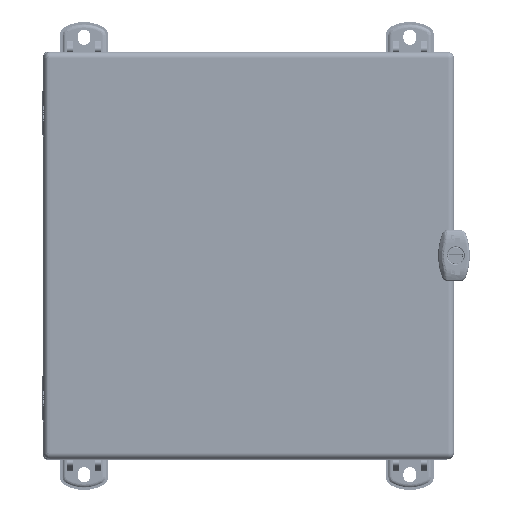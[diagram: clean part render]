
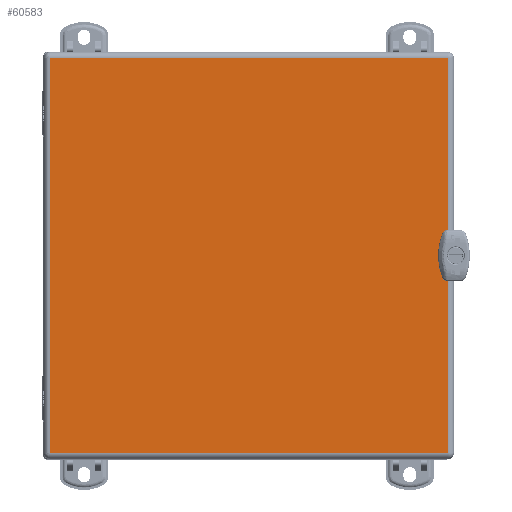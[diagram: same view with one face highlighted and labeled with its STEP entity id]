
A CAD part, top view. The second image highlights one B-rep face of the part: STEP entity #60583.
In plain terms, the highlighted planar face has unit normal (0, 0, 1).
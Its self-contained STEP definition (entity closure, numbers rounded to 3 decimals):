
#5222=CIRCLE('',#65472,0.03);
#5226=CIRCLE('',#65479,0.03);
#8110=FACE_OUTER_BOUND('',#11825,.T.);
#11825=EDGE_LOOP('',(#46346,#46347,#46348,#46349,#46350,#46351,#46352,#46353,
#46354,#46355));
#16292=LINE('',#103986,#21380);
#16296=LINE('',#103996,#21384);
#16303=LINE('',#104016,#21391);
#16304=LINE('',#104019,#21392);
#16306=LINE('',#104026,#21394);
#16400=LINE('',#104425,#21488);
#16402=LINE('',#104435,#21490);
#16403=LINE('',#104441,#21491);
#21380=VECTOR('',#74881,0.394);
#21384=VECTOR('',#74889,0.394);
#21391=VECTOR('',#74910,0.394);
#21392=VECTOR('',#74913,0.394);
#21394=VECTOR('',#74919,0.394);
#21488=VECTOR('',#75197,0.394);
#21490=VECTOR('',#75209,0.394);
#21491=VECTOR('',#75220,0.394);
#26463=VERTEX_POINT('',#103977);
#26464=VERTEX_POINT('',#103979);
#26465=VERTEX_POINT('',#103983);
#26470=VERTEX_POINT('',#103995);
#26472=VERTEX_POINT('',#104001);
#26475=VERTEX_POINT('',#104011);
#26477=VERTEX_POINT('',#104018);
#26480=VERTEX_POINT('',#104024);
#26575=VERTEX_POINT('',#104419);
#26580=VERTEX_POINT('',#104433);
#33451=EDGE_CURVE('',#26464,#26463,#5222,.T.);
#33454=EDGE_CURVE('',#26463,#26465,#16292,.T.);
#33459=EDGE_CURVE('',#26470,#26464,#16296,.T.);
#33462=EDGE_CURVE('',#26472,#26470,#5226,.T.);
#33470=EDGE_CURVE('',#26475,#26472,#16303,.T.);
#33471=EDGE_CURVE('',#26475,#26477,#16304,.T.);
#33475=EDGE_CURVE('',#26480,#26465,#16306,.T.);
#33619=EDGE_CURVE('',#26477,#26575,#16400,.T.);
#33624=EDGE_CURVE('',#26580,#26480,#16402,.T.);
#33628=EDGE_CURVE('',#26575,#26580,#16403,.T.);
#46346=ORIENTED_EDGE('',*,*,#33454,.T.);
#46347=ORIENTED_EDGE('',*,*,#33475,.F.);
#46348=ORIENTED_EDGE('',*,*,#33624,.F.);
#46349=ORIENTED_EDGE('',*,*,#33628,.F.);
#46350=ORIENTED_EDGE('',*,*,#33619,.F.);
#46351=ORIENTED_EDGE('',*,*,#33471,.F.);
#46352=ORIENTED_EDGE('',*,*,#33470,.T.);
#46353=ORIENTED_EDGE('',*,*,#33462,.T.);
#46354=ORIENTED_EDGE('',*,*,#33459,.T.);
#46355=ORIENTED_EDGE('',*,*,#33451,.T.);
#58416=PLANE('',#65596);
#60583=ADVANCED_FACE('',(#8110),#58416,.T.);
#65472=AXIS2_PLACEMENT_3D('',#103980,#74874,#74875);
#65479=AXIS2_PLACEMENT_3D('',#104002,#74895,#74896);
#65596=AXIS2_PLACEMENT_3D('',#104452,#75238,#75239);
#74874=DIRECTION('center_axis',(0.,0.,-1.));
#74875=DIRECTION('ref_axis',(0.,1.,0.));
#74881=DIRECTION('',(1.,0.,0.));
#74889=DIRECTION('',(0.,1.,0.));
#74895=DIRECTION('center_axis',(0.,0.,-1.));
#74896=DIRECTION('ref_axis',(-1.,0.,0.));
#74910=DIRECTION('',(-1.,0.,0.));
#74913=DIRECTION('',(0.,-1.,0.));
#74919=DIRECTION('',(0.,-1.,0.));
#75197=DIRECTION('',(-1.,0.,0.));
#75209=DIRECTION('',(1.,0.,0.));
#75220=DIRECTION('',(0.,1.,0.));
#75238=DIRECTION('center_axis',(0.,0.,1.));
#75239=DIRECTION('ref_axis',(1.,0.,0.));
#103977=CARTESIAN_POINT('',(4.867,0.563,0.053));
#103979=CARTESIAN_POINT('',(4.837,0.533,0.053));
#103980=CARTESIAN_POINT('Origin',(4.867,0.533,0.053));
#103983=CARTESIAN_POINT('',(4.894,0.563,0.053));
#103986=CARTESIAN_POINT('',(2.535,0.563,0.053));
#103995=CARTESIAN_POINT('',(4.837,-0.533,0.053));
#103996=CARTESIAN_POINT('',(4.837,0.266,0.053));
#104001=CARTESIAN_POINT('',(4.867,-0.563,0.053));
#104002=CARTESIAN_POINT('Origin',(4.867,-0.533,0.053));
#104011=CARTESIAN_POINT('',(4.894,-0.563,0.053));
#104016=CARTESIAN_POINT('',(2.433,-0.563,0.053));
#104018=CARTESIAN_POINT('',(4.894,-4.854,0.053));
#104019=CARTESIAN_POINT('',(4.894,-2.427,0.053));
#104024=CARTESIAN_POINT('',(4.894,4.854,0.053));
#104026=CARTESIAN_POINT('',(4.894,-2.427,0.053));
#104419=CARTESIAN_POINT('',(-4.894,-4.854,0.053));
#104425=CARTESIAN_POINT('',(-2.447,-4.854,0.053));
#104433=CARTESIAN_POINT('',(-4.894,4.854,0.053));
#104435=CARTESIAN_POINT('',(2.447,4.854,0.053));
#104441=CARTESIAN_POINT('',(-4.894,2.427,0.053));
#104452=CARTESIAN_POINT('Origin',(0.,0.,
0.053));
